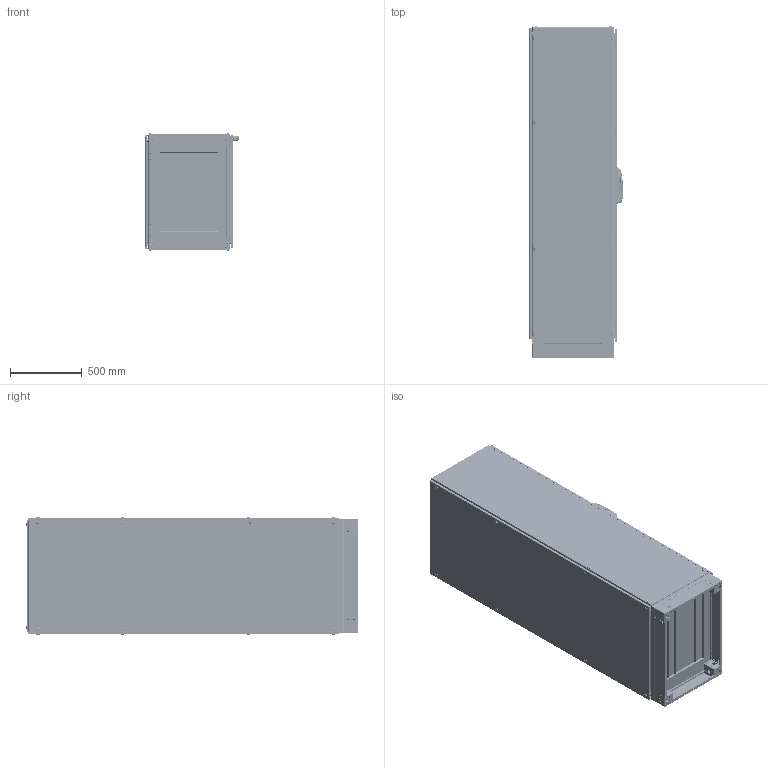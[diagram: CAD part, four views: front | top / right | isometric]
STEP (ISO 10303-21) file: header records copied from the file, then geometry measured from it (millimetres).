
FILE_DESCRIPTION (( 'STEP AP203' ), '1' );
FILE_NAME ('708.226 800x2200x600.STEP', '2020-04-06T16:50:14', ( '' ), ( '' ), 'SwSTEP 2.0', 'SolidWorks 2019', '' );
FILE_SCHEMA (( 'CONFIG_CONTROL_DESIGN' ));
Length unit declared in the file: millimetre
Products named in the file (124): TEOS SIDE PANEL_706.226 2200X600; mentese orta 09-201; L KOSE DESTEKorj1; mp aLT DAYAMA_PP 12.0093 - 600; 22032010-PLASTIK KOSE50x40; M6 HAVÞA PLASTÝK CÝVATA; V2 BAZA KOSESI2015_100; TEOS-NEO MP Sag Dayama; yan Kapak 09-2014 800 der ust tek hv r3_PP 12.0071 - 2200X600; ENINE DELIKLI PROFIL_800; MP 14.0006 PVC SIZDIRMAZLIK CONTASI; MP 18.7631 Arka Kapak; yan arka kapak baglantý saci; Mirror03-KOSE PUNT; 03taban derinlik percinli_PP 12.0025 - 600; TEOS iskelet_800x2200x600; MP 18.7631 32002136; socket button head cap screw_am_B18.3.4M - 12 x 1.75 x 30 SBHCS --N; M8 KAFES SOMUN_m8; 252016-2; Teos-Neo MP Sað Braketi; MP 18.7631 Kol-Cark; BAZA KÖÞES_SAG; TEOS Yeni Kapak Montaj version 2_2200; TEOS Kilit Çubuk Dili; percinli taban-vidalý kapak-kose pls yok_701.860-80X60 ALT; M6 KAFES SOMU2015; TEOS TEK KAPAK REVÝZE_800x2200; MP 11.0140 TEOS ALUMINYUM KOSE APPROVED 16.08.2010; somu; BOYUNA DELIKLI PROFIL_2200; 03-2012 sac kilit dil 10-2010 ORTA; MP 18.7631 Kayar Parça; V3 -2011 DT BAZA KAPAGI yan_PP 12.0051 - 600; Teos-Neo MP Sol Braket Montaj_Standart Pozisyon; pan head cross recess screw_iso_ISO 7045 - M5 x 10 - Z --- 10C; Teos-Neo MP Sol Braketi; mentese ust alt 09-2010; MP 18.7631 Modul; kafes somun kafes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
Assembly tree (385 placements, depth 7):
  708.226 800x2200x600
    TEOS iskelet_800x2200x600
      kapali dikey profilkenetli_ita oluklu10-aaaaaaaaaaaa-1_2200  x4
      kapali dikey profilkenetli_ita oluklu10-aaaaaaaaaaaa-1_600  x4
      kapali dikey profilkenetli_ita oluklu10-aaaaaaaaaaaa-1_800  x4
      L KOSE DESTEKorj1  x8
      kose rondela kabartmaSIZ 10  x15
      kose rondela kabartmaSIZ 12
      MP 11.0140 TEOS ALUMINYUM KOSE APPROVED 16.08.2010  x8
      M5 DÝKEY PROFÝL RONDELA  x16
      percinli taban-vidalý kapak-kose pls yok_701.860-80X60 ALT
        03-taban genislik percinli 04 - 2012 100-120_PP 12.0020 - 800  x2
        03taban derinlik percinli_PP 12.0025 - 600  x2
        03-KOSE PUNT_PP 12.0027
        03-KOSE PUNT
        Mirror03-KOSE PUNT  x2
        TEOS V2 BAZA S嵞TEM廆800x600
          BAZA KÖÞES_SAG
            V2 BAZA KOSESI2015_100
            BAZA SISTEMIV2-6 baza kapaðý201550x40_TEKPAN LOGOLU
            M6 KAFES SOMU2015
              kafes somun kafes
              somu
            M6 KAFES SOMU2015
              kafes somun kafes
              somu
          V2 -2011 DT BAZA KAPAGI ON_PP 12.0046 - 800  x2
          BAZA KÖÞES_SOL
            V2 BAZA KOSESI2015_100
            BAZA SISTEMIV2-6 baza kapaðý201550x40
            M6 KAFES SOMU2015
              kafes somun kafes
              somu
            M6 KAFES SOMU2015
              kafes somun kafes
              somu
          BAZA KÖÞES_SAG
            V2 BAZA KOSESI2015_100
            BAZA SISTEMIV2-6 baza kapaðý201550x40_TEKPAN LOGOLU
            M6 KAFES SOMU2015
              kafes somun kafes
              somu
            M6 KAFES SOMU2015
              kafes somun kafes
              somu
          BAZA KÖÞES_SOL
            V2 BAZA KOSESI2015_100
            BAZA SISTEMIV2-6 baza kapaðý201550x40
            M6 KAFES SOMU2015
              kafes somun kafes
              somu
            M6 KAFES SOMU2015
              kafes somun kafes
              somu
          V3 -2011 DT BAZA KAPAGI yan_PP 12.0051 - 600  x2
          flat head screw_am_B18.6.7M - M6 x 1.0 x 20 Type I Cross Recessed FHMS --20N  x8
        03-TABAN SACI SURGU_PP 12.0031 - 800  x2
        03-TABAN SACI U1 04-2012_PP 12.0041 -800-75
        03-TABAN SACI U1 04-2012_PP 12.0036 -800-200
        mp aLT DAYAMA_PP 12.0093 - 600  x2
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Bounding box: 658.09 x 2317.1 x 818.87 mm (x, y, z)
Volume: 24981886.6 mm3; surface area: 26416903.5 mm2
Topology: 332 solids, 372 shells, 52642 faces, 143668 edges, 91466 vertices
Faces by surface type: plane 33301, cylinder 14422, bspline 2211, torus 1139, cone 960, sphere 609
Entity records: 723606 total; most frequent: CARTESIAN_POINT 298017, ORIENTED_EDGE 86624, DIRECTION 79967, EDGE_CURVE 43312, LINE 28937, VECTOR 28937, VERTEX_POINT 27812, AXIS2_PLACEMENT_3D 25515
